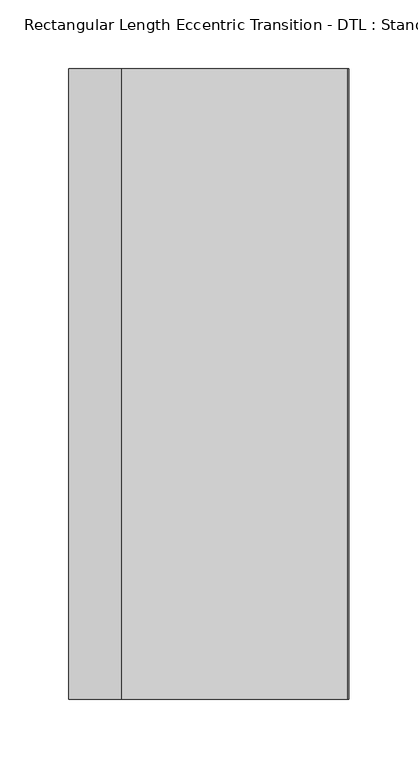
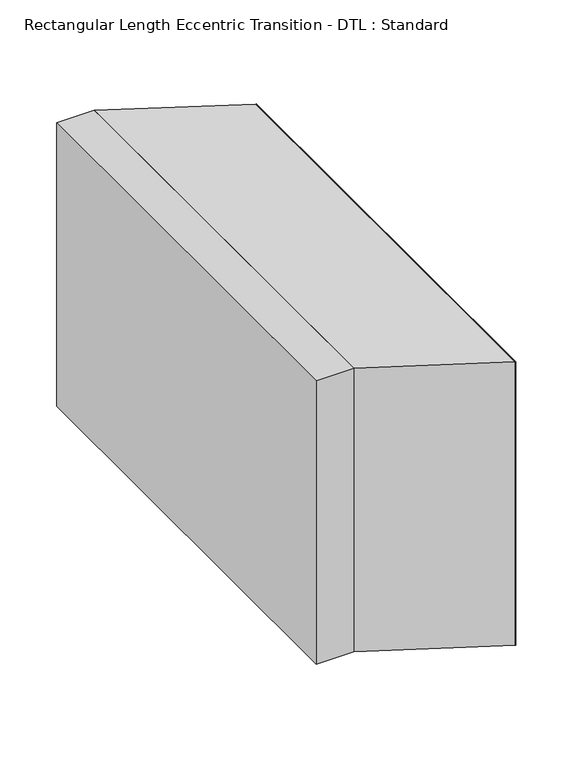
"""IFC4 building model written with IfcOpenShell, lengths in millimetres: duct fitting geometry, Rectangular Length Eccentric Transition - DTL : Standard."""

from ifc_helpers import new_model, si_unit, frame, origin, place, context, project, spatial, polyline, outline, extrude, source, transform, mapped, element, save


def rectangular_length_eccentric_transition_dtl_standard_903a5867(model_context):
    return source(origin(), model_context, "Body", "SweptSolid", [
        extrude(outline(polyline([(203.2, 228.6), (203.2, -228.6), (202.40625, -228.6), (202.40625, 228.6), (203.2, 228.6)])), frame((0.0, 0.0, -203.2), z_axis=(0.0, 0.0, 1.0), x_axis=(1.0, 0.0, 0.0)), (0.0, 0.0, 1.0), 304.8),
        extrude(outline(polyline([(38.1, 228.6), (38.1, -228.6), (0.0, -228.6), (0.0, 228.6), (38.1, 228.6)])), frame((0.0, 0.0, -152.4), z_axis=(0.0, 0.0, 1.0), x_axis=(1.0, 0.0, 0.0)), (0.0, 0.0, 1.0), 304.8),
        extrude(outline(polyline([(-203.2, 202.40625), (101.6, 202.40625), (152.4, 38.1), (-152.4, 38.1), (-203.2, 202.40625)])), frame((0.0, -228.6, 0.0), z_axis=(0.0, 1.0, 0.0), x_axis=(0.0, 0.0, 1.0)), (0.0, 0.0, 1.0), 457.2),
    ])


if __name__ == "__main__":
    model = new_model("IFC4")
    model_context = context("Model", 3, world=origin())
    ifc_project = project(units=[si_unit("LENGTHUNIT", "METRE", prefix="MILLI")], contexts=[model_context])
    site = spatial("IfcSite", under=ifc_project)
    building = spatial("IfcBuilding", under=site)
    placement = place(None, origin())
    rectangular_length_eccentric_transition_dtl_standard_shape = rectangular_length_eccentric_transition_dtl_standard_903a5867(model_context)
    element("IfcDuctFitting", 1, ObjectType="Rectangular Length Eccentric Transition - DTL : Standard", at=placement, inside=building, context=model_context, shape_type="MappedRepresentation", body=[
        mapped(rectangular_length_eccentric_transition_dtl_standard_shape, transform((0.0, 0.0, 0.0), x_axis=(1.0, 0.0, 0.0), y_axis=(0.0, 1.0, 0.0), z_axis=(0.0, 0.0, 1.0))),
    ])
    save(model, "model.ifc")
